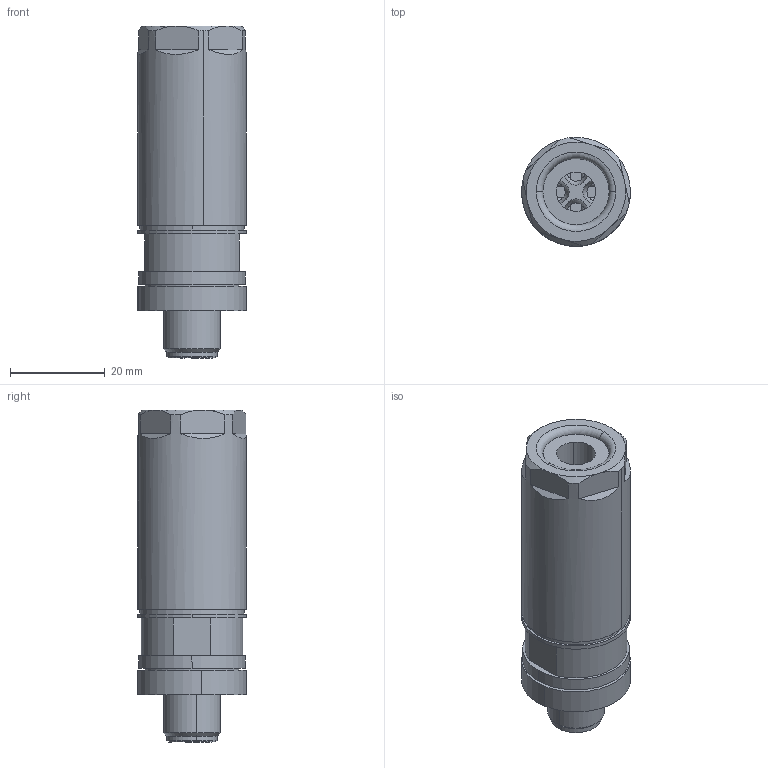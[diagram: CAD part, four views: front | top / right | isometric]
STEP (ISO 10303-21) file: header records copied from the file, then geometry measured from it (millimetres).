
FILE_DESCRIPTION(('Creo Elements/Direct Modeling STEP Export'),'2;1');
FILE_NAME('C:/temp/JobSpoolerServerData/JobServer Files/f34a0b11-8841-4c77-96c9-e52246402259/work/output/model.stp','2020-03-31T15:44:13',(''),(''),'Creo Elements/Direct Modeling STEP processor for AP214 (Solid Model)','Creo Elements/Direct Modeling 20.1A 29-Sep-2018 (C) Parametric Technology GmbH','');
FILE_SCHEMA(('AUTOMOTIVE_DESIGN { 1 0 10303 214 1 1 1 1 }'));
Length unit declared in the file: millimetre
Products named in the file (3): SACC_M12MS-select; SACC_MT_4PL-select; SACC_M12MST_4PL_CM_SH-select
Assembly tree (2 placements, depth 2):
  SACC_M12MST_4PL_CM_SH-select
    SACC_MT_4PL-select
    SACC_M12MS-select
Bounding box: 23 x 23 x 70.2 mm (x, y, z)
Volume: 18992.9 mm3; surface area: 12450.4 mm2
Topology: 2 solids, 2 shells, 425 faces, 1132 edges, 748 vertices
Faces by surface type: plane 221, cylinder 121, cone 32, extrusion 32, torus 19
Entity records: 18123 total; most frequent: CARTESIAN_POINT 6161, ORIENTED_EDGE 2264, DIRECTION 1927, EDGE_CURVE 1132, VERTEX_POINT 748, VECTOR 673, LINE 641, AXIS2_PLACEMENT_3D 627
